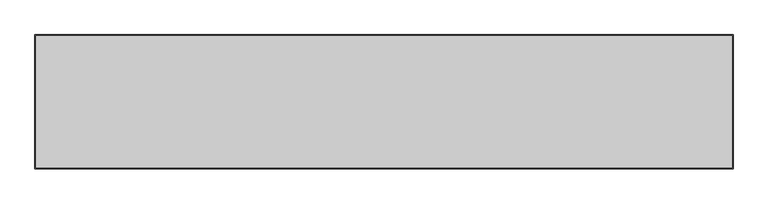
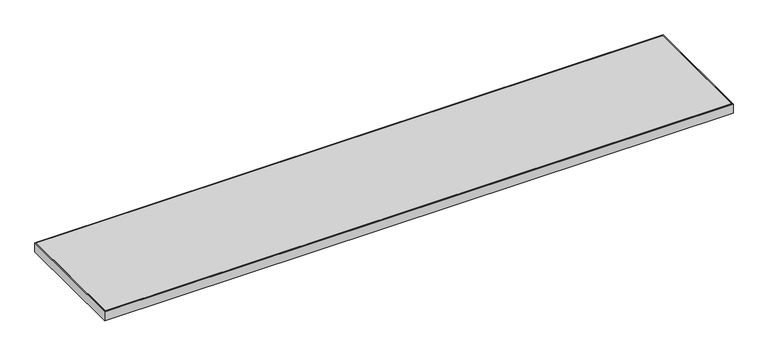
"""IFC4 building model written with IfcOpenShell, lengths in millimetres: furniture geometry, Steelcase - Universal Storage - Square Edge Top - Flush Front - Laminate : Common Top - 15D x 78W."""

from ifc_helpers import new_model, si_unit, frame, origin, place, context, project, spatial, polyline, outline, extrude, source, transform, mapped, element, save


def furniture_4f6d610e(model_context):
    return source(origin(), model_context, "Body", "SweptSolid", [
        extrude(outline(polyline([(1978.1520001, -3.0479999), (1978.1520001, -377.9520001), (3.0479999, -377.9520001), (3.0479999, -3.0479999), (1978.1520001, -3.0479999)])), frame((0.0, 0.0, 680.72), z_axis=(0.0, 0.0, 1.0), x_axis=(1.0, 0.0, 0.0)), (0.0, 0.0, 1.0), 30.48),
        extrude(outline(polyline([(1981.2, 0.0), (1981.2, -381.0), (0.0, -381.0), (0.0, 0.0), (1981.2, 0.0)]), holes=[polyline([(1978.1520001, -3.0479999), (3.0479999, -3.0479999), (3.0479999, -377.9520001), (1978.1520001, -377.9520001), (1978.1520001, -3.0479999)])]), frame((0.0, 0.0, 680.72), z_axis=(0.0, 0.0, 1.0), x_axis=(1.0, 0.0, 0.0)), (0.0, 0.0, 1.0), 30.48),
    ])


if __name__ == "__main__":
    model = new_model("IFC4")
    model_context = context("Model", 3, world=origin())
    ifc_project = project(units=[si_unit("LENGTHUNIT", "METRE", prefix="MILLI")], contexts=[model_context])
    site = spatial("IfcSite", under=ifc_project)
    building = spatial("IfcBuilding", under=site)
    placement = place(None, origin())
    furniture_shape = furniture_4f6d610e(model_context)
    element("IfcFurniture", 1, ObjectType="Steelcase - Universal Storage - Square Edge Top - Flush Front - Laminate : Common Top - 15D x 78W", at=placement, inside=building, context=model_context, shape_type="MappedRepresentation", body=[
        mapped(furniture_shape, transform((0.0, 0.0, 0.0), x_axis=(1.0, 0.0, 0.0), y_axis=(0.0, 1.0, 0.0), z_axis=(0.0, 0.0, 1.0))),
    ])
    save(model, "model.ifc")
